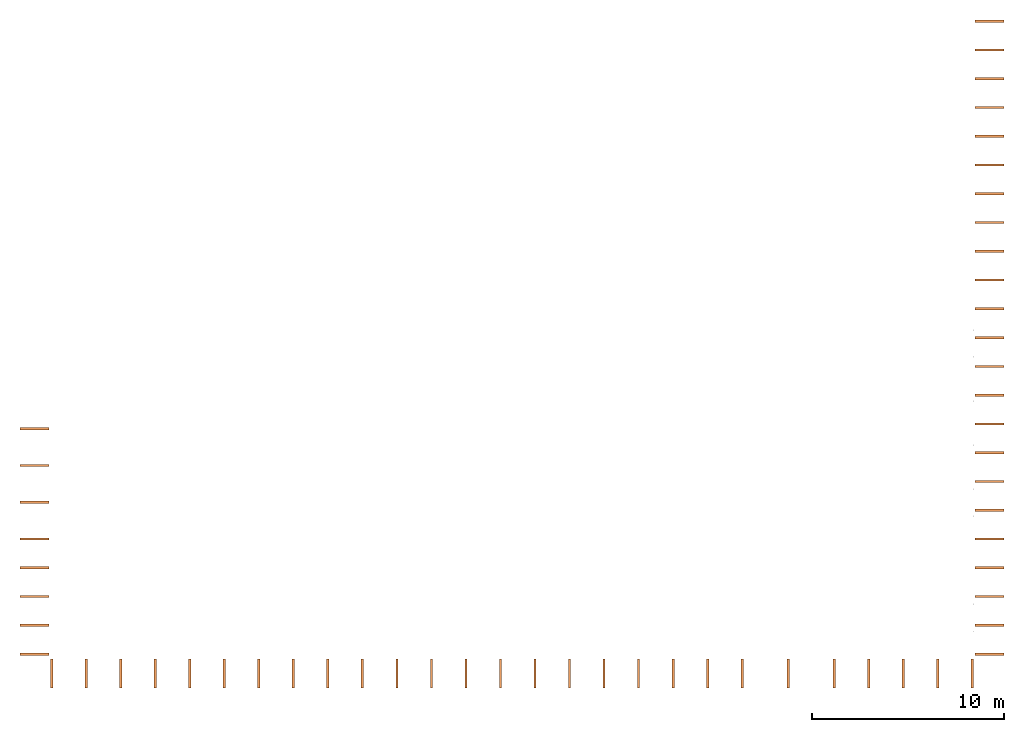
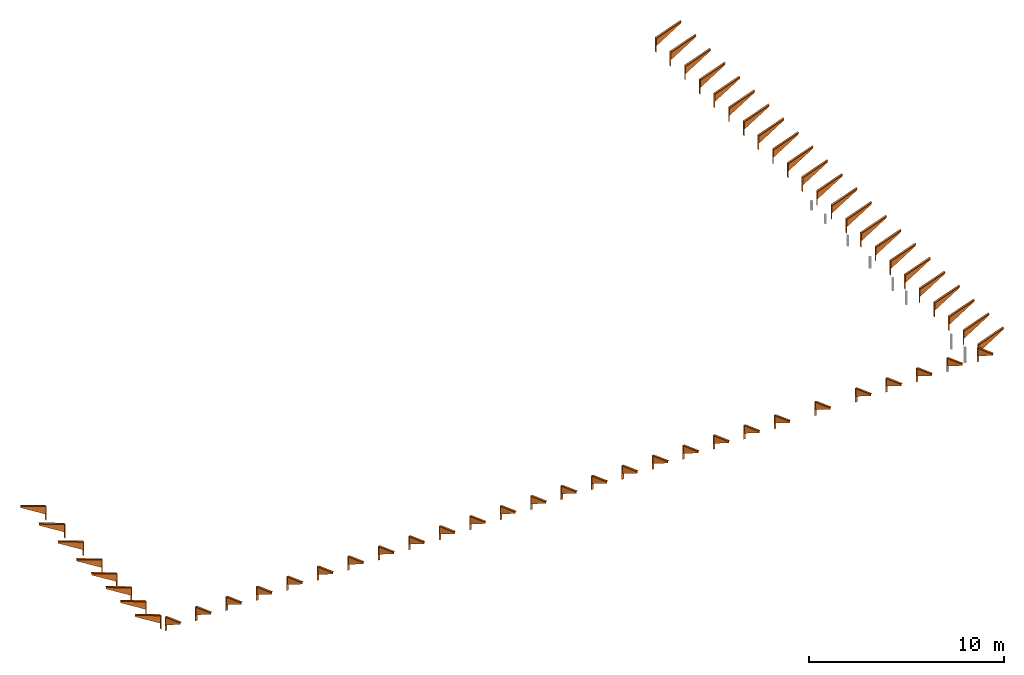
# One storey, part 1 of 3: 58 proxies.
"""IFC2X3 building model written with IfcOpenShell, lengths in millimetres."""

from ifc_helpers import new_model, entity, si_unit, converted_unit, derived_unit, direction, frame, origin, place, context, subcontext, project, spatial, faceted_brep, source, transform, mapped, material, type_object, type_shapes, element, save


model = new_model("IFC2X3")

# Units and contexts
model_context = context("Model", 3, precision=0.01, world=origin(), true_north=direction((0.7716245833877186, 0.6360782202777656)))
body_context = subcontext(model_context, "Body", "Model", "MODEL_VIEW")
ifc_project = project(units=[si_unit("LENGTHUNIT", "METRE", prefix="MILLI"), si_unit("AREAUNIT", "SQUARE_METRE"), converted_unit("PLANEANGLEUNIT", "DEGREE", entity("IfcPlaneAngleMeasure", 0.017453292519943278), si_unit("PLANEANGLEUNIT", "RADIAN"), dimensions=[0, 0, 0, 0, 0, 0, 0]), derived_unit("THERMALTRANSMITTANCEUNIT", [(si_unit("MASSUNIT", "GRAM", prefix="KILO"), 1), (si_unit("THERMODYNAMICTEMPERATUREUNIT", "KELVIN"), -1), (si_unit("TIMEUNIT", "SECOND"), -3)])], contexts=[model_context])

# Site, building, storey
site_placement = place(None, origin())
site = spatial("IfcSite", under=ifc_project, at=site_placement, Name="Default", CompositionType="ELEMENT")
building_placement = place(site_placement, origin())
building = spatial("IfcBuilding", under=site, at=building_placement, CompositionType="ELEMENT")
storey_placement = place(building_placement, frame((0.0, 0.0, 42000.0)))
storey = spatial("IfcBuildingStorey", under=building, at=storey_placement, Name="PLAN 04 (TAK)", CompositionType="ELEMENT", Elevation=42000.0)

# Proxies
ifc_material = material(Name="<Unnamed>")
building_element_proxy_type = type_object("IfcBuildingElementProxyType", Name="Fallsikring:Fallsikring", PredefinedType="NOTDEFINED", material=ifc_material)
shared_shape = source(origin(), body_context, "Body", "Brep", [
    faceted_brep([(104.70032643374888, 1200.0, 1435.9553513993), (104.70032643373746, -300.0, 890.0), (104.70032643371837, -300.0, 0.0), (104.70032643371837, -290.0, 0.0), (104.70032643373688, -290.0, 861.7143691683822), (104.70032643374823, 1200.0, 1404.0300182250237), (-15.299673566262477, -300.0, 890.0), (-15.299673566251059, 1200.0, 1435.9553513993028), (-15.299673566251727, 1200.0, 1404.0300182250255), (-15.29967356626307, -290.0, 861.7143691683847), (-15.299673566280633, -290.0, 0.0), (-15.299673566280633, -300.0, 0.0), (59.70032643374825, 1200.0, 1404.0300182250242), (59.70032643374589, 1200.0, 1291.017276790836), (29.700326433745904, 1200.0, 1291.0172767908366), (29.700326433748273, 1200.0, 1404.0300182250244), (59.7003264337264, -290.0, 359.96194244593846), (29.700326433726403, -290.0, 359.961942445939), (59.70032643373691, -290.0, 861.714369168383), (29.70032643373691, -290.0, 861.7143691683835)], [[[0, 1, 2, 3, 4, 5]], [[6, 7, 8, 9, 10, 11]], [[7, 0, 5, 12, 13, 14, 15, 8]], [[1, 0, 7, 6]], [[2, 1, 6, 11]], [[14, 13, 16, 17]], [[13, 12, 18, 16]], [[12, 5, 4, 18]], [[15, 14, 17, 19]], [[8, 15, 19, 9]], [[2, 11, 10, 3]], [[3, 10, 9, 19, 17, 16, 18, 4]]]),
])
type_shapes(building_element_proxy_type, [shared_shape])
for number, where, z_axis, x_axis in (
    (1, (237162.6247729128, 52760.42057410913, -4484.337535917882), (0.0, 0.0, 1.0), (-1.0, 0.0, 0.0)),
    (2, (238962.6247729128, 52760.42057410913, -4484.337535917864), (0.0, 0.0, 1.0), (-1.0, 0.0, 0.0)),
    (3, (240762.6247729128, 52760.42057410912, -4484.337535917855), (0.0, 0.0, 1.0), (-1.0, 0.0, 0.0)),
    (4, (242562.62477291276, 52760.420574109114, -4484.337535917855), (0.0, 0.0, 1.0), (-1.0, 0.0, 0.0)),
    (5, (244362.62477291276, 52760.420574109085, -4484.337535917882), (0.0, 0.0, 1.0), (-1.0, 0.0, 0.0)),
    (6, (229962.6247729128, 52760.42057410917, -4484.337535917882), (0.0, 0.0, 1.0), (-1.0, 0.0, 0.0)),
    (7, (231762.6247729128, 52760.42057410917, -4484.337535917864), (0.0, 0.0, 1.0), (-1.0, 0.0, 0.0)),
    (8, (233562.6247729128, 52760.420574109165, -4484.337535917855), (0.0, 0.0, 1.0), (-1.0, 0.0, 0.0)),
    (9, (235362.62477291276, 52760.42057410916, -4484.337535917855), (0.0, 0.0, 1.0), (-1.0, 0.0, 0.0)),
    (10, (246162.62477291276, 52760.420574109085, -4484.337535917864), (0.0, 0.0, 1.0), (-1.0, 0.0, 0.0)),
    (11, (247962.6247729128, 52760.42057410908, -4484.337535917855), (0.0, 0.0, 1.0), (-1.0, 0.0, 0.0)),
    (12, (249762.62477291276, 52760.42057410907, -4484.337535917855), (0.0, 0.0, 1.0), (-1.0, 0.0, 0.0)),
    (13, (251562.62477291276, 52760.42057410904, -4484.337535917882), (0.0, 0.0, 1.0), (-1.0, 0.0, 0.0)),
    (14, (253362.62477291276, 52760.42057410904, -4484.337535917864), (0.0, 0.0, 1.0), (-1.0, 0.0, 0.0)),
    (15, (255162.62477291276, 52760.42057410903, -4484.337535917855), (0.0, 0.0, 1.0), (-1.0, 0.0, 0.0)),
    (16, (256962.62477291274, 52760.420574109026, -4484.337535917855), (0.0, 0.0, 1.0), (-1.0, 0.0, 0.0)),
    (17, (258762.62477291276, 52760.420574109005, -4484.337535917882), (0.0, 0.0, 1.0), (-1.0, 0.0, 0.0)),
    (18, (260562.62477291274, 52760.420574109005, -4484.337535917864), (0.0, 0.0, 1.0), (-1.0, 0.0, 0.0)),
    (19, (262362.6247729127, 52760.42057410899, -4484.337535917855), (0.0, 0.0, 1.0), (-1.0, 0.0, 0.0)),
    (20, (264162.6247729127, 52760.42057410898, -4484.337535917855), (0.0, 0.0, 1.0), (-1.0, 0.0, 0.0)),
    (21, (265962.6247729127, 52760.42057410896, -4484.337535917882), (0.0, 0.0, 1.0), (-1.0, 0.0, 0.0)),
    (22, (268362.62477291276, 52760.420574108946, -4484.337535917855), (0.0, 0.0, 1.0), (-1.0, 0.0, 0.0)),
    (23, (270762.6247729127, 52760.42057410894, -4484.337535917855), (0.0, 0.0, 1.0), (-1.0, 0.0, 0.0)),
    (24, (277962.6247729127, 52760.420574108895, -4484.337535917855), (0.0, 0.0, 1.0), (-1.0, 0.0, 0.0)),
    (25, (272562.62477291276, 52760.42057410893, -4484.33753591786), (0.0, 0.0, 1.0), (-1.0, 0.0, 0.0)),
    (26, (274362.6247729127, 52760.420574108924, -4484.337535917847), (0.0, 0.0, 1.0), (-1.0, 0.0, 0.0)),
    (27, (276162.6247729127, 52760.42057410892, -4484.3375359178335), (0.0, 0.0, 1.0), (-1.0, 0.0, 0.0)),
    (28, (229467.92444647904, 53270.555223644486, -4489.439469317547), (0.0, 0.0, 1.0), (0.0, 1.0, 0.0)),
    (29, (229467.92444647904, 59270.555223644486, -4646.554998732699), (0.0, 0.0, 1.0), (0.0, 1.0, 0.0)),
    (30, (229467.92444647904, 57770.55522364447, -4607.276116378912), (0.0, 0.0, 1.0), (0.0, 1.0, 0.0)),
    (31, (229467.92444647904, 56270.55522364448, -4567.997234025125), (0.0, 0.0, 1.0), (0.0, 1.0, 0.0)),
    (32, (229467.92444647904, 54770.55522364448, -4528.718351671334), (0.0, 0.0, 1.0), (0.0, 1.0, 0.0)),
    (33, (229467.92444647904, 61187.22189031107, -4696.744681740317), (0.0, 0.0, 1.0), (0.0, 1.0, 0.0)),
    (34, (229467.92444647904, 63103.888556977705, -4746.799909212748), (0.0, 0.0, 1.0), (0.0, 1.0, 0.0)),
    (35, (229467.92444647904, 65020.55522364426, -4798.042980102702), (0.0, 0.0, 1.0), (0.0, 1.0, 0.0)),
    (36, (278367.92444647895, 53359.95587651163, -4492.5817799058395), (0.0, 0.0, 1.0), (0.0, -1.0, 0.0)),
    (37, (278367.92444647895, 59359.95587651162, -4649.69730932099), (0.0, 0.0, 1.0), (0.0, -1.0, 0.0)),
    (38, (278367.92444647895, 65359.95587651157, -4806.812838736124), (0.0, 0.0, 1.0), (0.0, -1.0, 0.0)),
    (39, (278367.92444647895, 71359.95587651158, -4963.928368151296), (0.0, 0.0, 1.0), (0.0, -1.0, 0.0)),
    (40, (278367.92444647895, 54859.95587651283, -4531.860662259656), (0.0, 0.0, 1.0), (0.0, -1.0, 0.0)),
    (41, (278367.92444647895, 60859.95587651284, -4688.976191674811), (0.0, 0.0, 1.0), (0.0, -1.0, 0.0)),
    (42, (278367.92444647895, 66859.95587651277, -4846.091721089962), (0.0, 0.0, 1.0), (0.0, -1.0, 0.0)),
    (43, (278367.92444647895, 56359.955876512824, -4571.1395446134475), (0.0, 0.0, 1.0), (0.0, -1.0, 0.0)),
    (44, (278367.92444647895, 62359.95587651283, -4728.255074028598), (0.0, 0.0, 1.0), (0.0, -1.0, 0.0)),
    (45, (278367.92444647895, 68359.95587651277, -4885.370603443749), (0.0, 0.0, 1.0), (0.0, -1.0, 0.0)),
    (46, (278367.92444647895, 57859.955876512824, -4610.418426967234), (0.0, 0.0, 1.0), (0.0, -1.0, 0.0)),
    (47, (278367.92444647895, 63859.95587651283, -4767.5339563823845), (0.0, 0.0, 1.0), (0.0, -1.0, 0.0)),
    (48, (278367.92444647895, 69859.95587651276, -4924.649485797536), (0.0, 0.0, 1.0), (0.0, -1.0, 0.0)),
    (49, (278367.92444647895, 77359.95587651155, -5121.043897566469), (0.0, 0.0, 1.0), (0.0, -1.0, 0.0)),
    (50, (278367.92444647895, 72859.95587651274, -5003.207250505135), (0.0, 0.0, 1.0), (0.0, -1.0, 0.0)),
    (51, (278367.92444647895, 74359.95587651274, -5042.486132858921), (0.0, 0.0, 1.0), (0.0, -1.0, 0.0)),
    (52, (278367.92444647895, 75859.95587651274, -5081.765015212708), (0.0, 0.0, 1.0), (0.0, -1.0, 0.0)),
    (53, (278367.92444647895, 83359.95587651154, -5278.159426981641), (0.0, 0.0, 1.0), (0.0, -1.0, 0.0)),
    (54, (278367.92444647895, 78859.95587651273, -5160.322779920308), (0.0, 0.0, 1.0), (0.0, -1.0, 0.0)),
    (55, (278367.92444647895, 80359.95587651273, -5199.601662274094), (0.0, 0.0, 1.0), (0.0, -1.0, 0.0)),
    (56, (278367.92444647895, 81859.95587651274, -5238.880544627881), (0.0, 0.0, 1.0), (0.0, -1.0, 0.0)),
    (57, (278367.92444647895, 84859.95587651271, -5317.43830933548), (0.0, 0.0, 1.0), (0.0, -1.0, 0.0)),
    (58, (278367.92444647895, 86359.95587651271, -5356.717191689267), (0.0, 0.0, 1.0), (0.0, -1.0, 0.0)),
):
    element("IfcBuildingElementProxy", number, at=place(storey_placement, frame(where, z_axis=z_axis, x_axis=x_axis)), inside=storey, type_object=building_element_proxy_type, material=ifc_material, Name="Fallsikring:Fallsikring", ObjectType="Fallsikring:Fallsikring", context=body_context, shape_type="MappedRepresentation", body=[
        mapped(shared_shape, transform((0.0, 0.0, 0.0), scale=1.0)),
    ])

save(model, "model.ifc")
